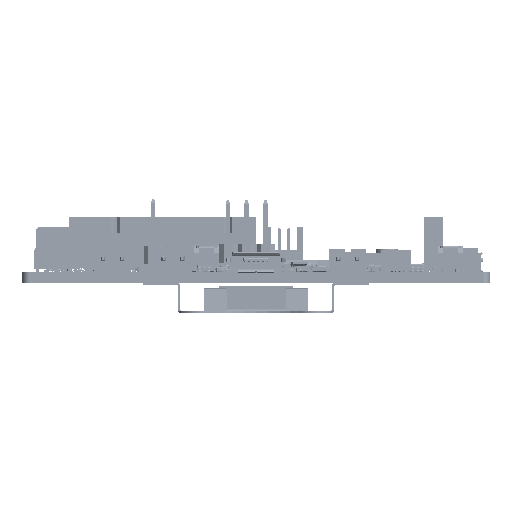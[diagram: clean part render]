
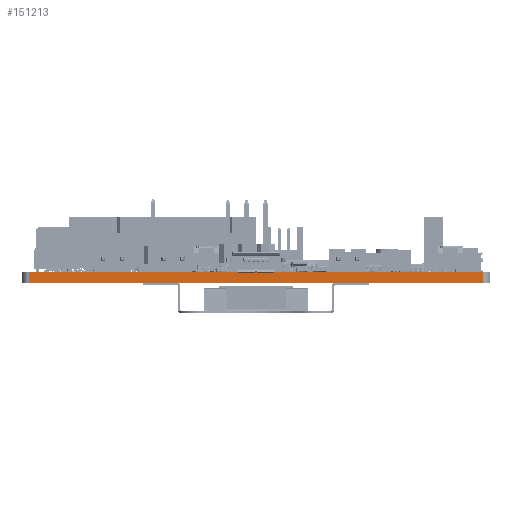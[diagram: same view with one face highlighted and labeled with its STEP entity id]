
A CAD part, left-side view. The second image highlights one B-rep face of the part: STEP entity #151213.
In plain terms, the highlighted planar face has unit normal (-1, 0, 0).
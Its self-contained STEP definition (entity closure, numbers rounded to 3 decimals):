
#21738=VERTEX_POINT('',#208238);
#21739=VERTEX_POINT('',#208240);
#21740=VERTEX_POINT('',#208244);
#21741=VERTEX_POINT('',#208246);
#35336=VECTOR('',#171904,1.);
#35337=VECTOR('',#171908,1.);
#35338=VECTOR('',#171909,1.);
#35339=VECTOR('',#171910,1.);
#52656=LINE('',#208239,#35336);
#52657=LINE('',#208243,#35337);
#52658=LINE('',#208245,#35338);
#52659=LINE('',#208247,#35339);
#69989=EDGE_CURVE('',#21738,#21739,#52656,.T.);
#69991=EDGE_CURVE('',#21738,#21740,#52657,.T.);
#69992=EDGE_CURVE('',#21740,#21741,#52658,.T.);
#69993=EDGE_CURVE('',#21739,#21741,#52659,.T.);
#91367=ORIENTED_EDGE('',*,*,#69991,.T.);
#91368=ORIENTED_EDGE('',*,*,#69992,.T.);
#91369=ORIENTED_EDGE('',*,*,#69993,.F.);
#91370=ORIENTED_EDGE('',*,*,#69989,.F.);
#134027=EDGE_LOOP('',(#91367,#91368,#91369,#91370));
#142620=FACE_BOUND('',#134027,.T.);
#151213=ADVANCED_FACE('',(#142620),#273287,.F.);
#159339=AXIS2_PLACEMENT_3D('',#208242,#171907,$);
#171904=DIRECTION('',(0.,0.,1.));
#171907=DIRECTION('',(1.,0.,0.));
#171908=DIRECTION('',(0.,-1.,0.));
#171909=DIRECTION('',(0.,0.,1.));
#171910=DIRECTION('',(0.,-1.,0.));
#208238=CARTESIAN_POINT('',(0.,62.484,-1.6));
#208239=CARTESIAN_POINT('',(0.,62.484,-1.6));
#208240=CARTESIAN_POINT('',(0.,62.484,0.));
#208242=CARTESIAN_POINT('',(0.,62.484,-1.6));
#208243=CARTESIAN_POINT('',(0.,62.484,-1.6));
#208244=CARTESIAN_POINT('',(0.,1.016,-1.6));
#208245=CARTESIAN_POINT('',(0.,1.016,-1.6));
#208246=CARTESIAN_POINT('',(0.,1.016,0.));
#208247=CARTESIAN_POINT('',(0.,62.484,0.));
#273287=PLANE('',#159339);
